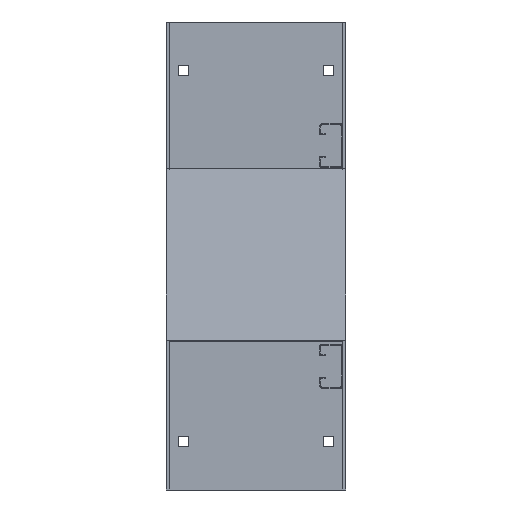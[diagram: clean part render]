
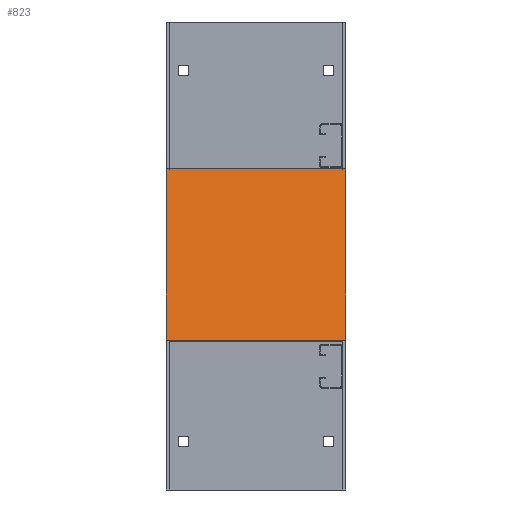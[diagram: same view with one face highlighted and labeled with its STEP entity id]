
A CAD part, left-side view. The second image highlights one B-rep face of the part: STEP entity #823.
In plain terms, the highlighted planar face has unit normal (-0.5, 0, 0.866).
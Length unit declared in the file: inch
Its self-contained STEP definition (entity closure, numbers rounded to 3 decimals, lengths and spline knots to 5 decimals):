
#61=DIRECTION('',(-0.866,0.,-0.5));
#62=VECTOR('',#61,13.85641);
#63=CARTESIAN_POINT('',(-0.11,7.24,-5.93649));
#64=LINE('',#63,#62);
#137=DIRECTION('',(0.,1.,0.));
#138=VECTOR('',#137,7.24);
#139=CARTESIAN_POINT('',(-12.11,0.,-12.86469));
#140=LINE('',#139,#138);
#177=DIRECTION('',(0.,1.,0.));
#178=VECTOR('',#177,7.24);
#179=CARTESIAN_POINT('',(-0.11,0.,-5.93649));
#180=LINE('',#179,#178);
#181=DIRECTION('',(-0.866,0.,-0.5));
#182=VECTOR('',#181,13.85641);
#183=CARTESIAN_POINT('',(-0.11,0.,-5.93649));
#184=LINE('',#183,#182);
#453=CARTESIAN_POINT('',(-0.11,0.,-5.93649));
#454=CARTESIAN_POINT('',(-0.11,7.24,-5.93649));
#455=VERTEX_POINT('',#453);
#456=VERTEX_POINT('',#454);
#469=CARTESIAN_POINT('',(-12.11,0.,-12.86469));
#470=CARTESIAN_POINT('',(-12.11,7.24,-12.86469));
#471=VERTEX_POINT('',#469);
#472=VERTEX_POINT('',#470);
#810=CARTESIAN_POINT('',(-0.055,0.,-5.90474));
#811=DIRECTION('',(-0.5,0.,0.866));
#812=DIRECTION('',(0.,1.,0.));
#813=AXIS2_PLACEMENT_3D('',#810,#811,#812);
#814=PLANE('',#813);
#816=ORIENTED_EDGE('',*,*,#815,.F.);
#818=ORIENTED_EDGE('',*,*,#817,.T.);
#819=ORIENTED_EDGE('',*,*,#781,.T.);
#820=ORIENTED_EDGE('',*,*,#655,.F.);
#821=EDGE_LOOP('',(#816,#818,#819,#820));
#822=FACE_OUTER_BOUND('',#821,.F.);
#823=ADVANCED_FACE('',(#822),#814,.T.);
#655=EDGE_CURVE('',#456,#472,#64,.T.);
#781=EDGE_CURVE('',#471,#472,#140,.T.);
#815=EDGE_CURVE('',#455,#456,#180,.T.);
#817=EDGE_CURVE('',#455,#471,#184,.T.);
